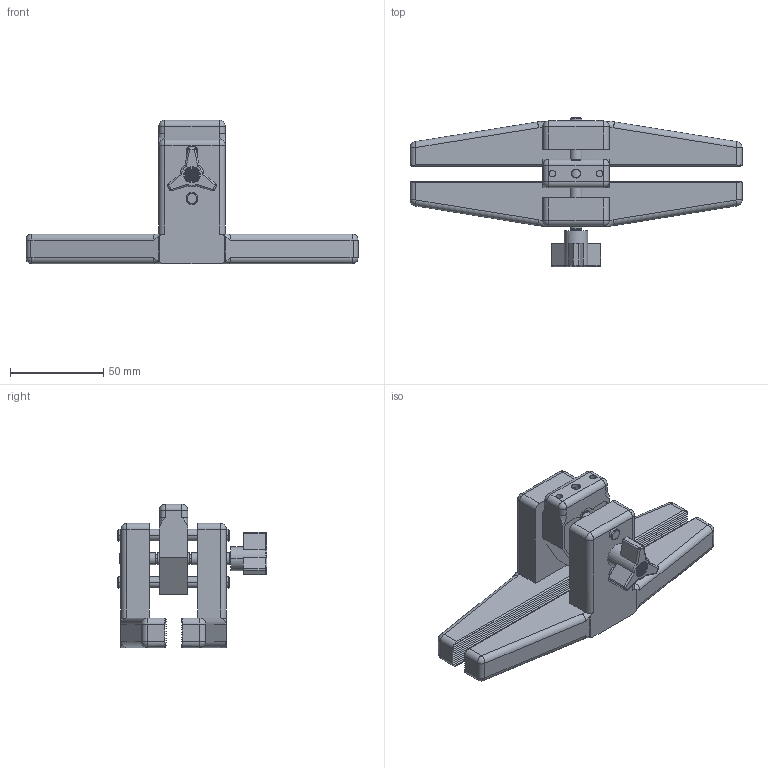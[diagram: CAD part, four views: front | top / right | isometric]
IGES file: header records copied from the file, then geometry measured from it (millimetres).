
Global section: file name: No Iges File Name specified; native system: Autodesk Inventor 2010; preprocessor: AutoDesk Inventor Iges Exporter R2010; author: mlampen; date: 20170419.135710; units: inch
Bounding box: 177.8 x 80.04 x 76.83 mm (x, y, z)
Volume: 185104.4 mm3; surface area: 54778.6 mm2
Topology: 10 solids, 15 shells, 880 faces, 2473 edges, 1666 vertices
Faces by surface type: plane 317, cylinder 250, revolution 202, cone 40, bspline 38, sphere 22, torus 11
Full cylindrical faces by diameter (mm): 2.474 x45, 3.505 x30
